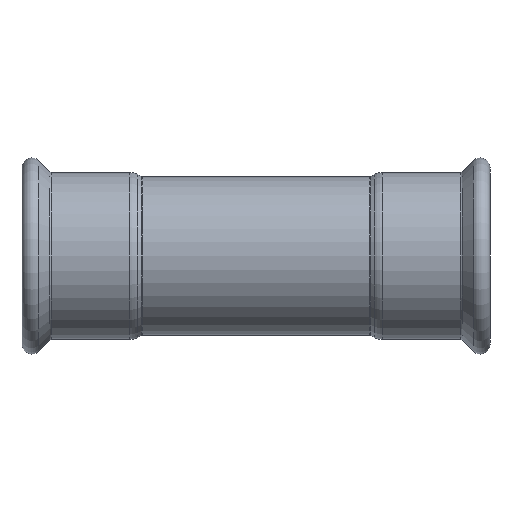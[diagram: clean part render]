
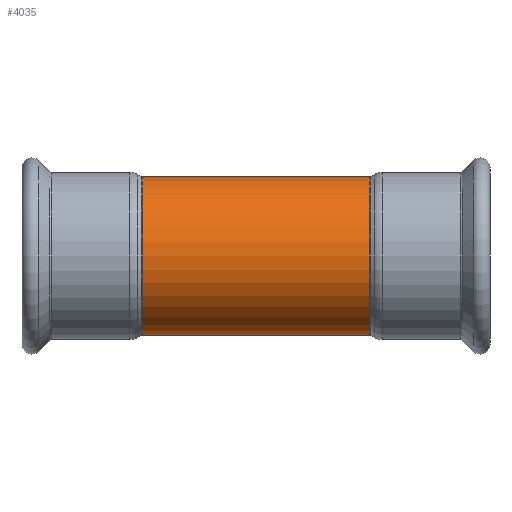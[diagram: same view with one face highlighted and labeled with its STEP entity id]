
A CAD part, front view. The second image highlights one B-rep face of the part: STEP entity #4035.
In plain terms, the highlighted cylindrical face has radius 43.95 mm (diameter 87.9 mm), a partial arc.
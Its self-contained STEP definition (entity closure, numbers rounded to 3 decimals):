
#20 = CARTESIAN_POINT ( 'NONE',  ( 63.056, 0., 43.95 ) ) ;
#26 = ORIENTED_EDGE ( 'NONE', *, *, #67, .T. ) ;
#67 = EDGE_CURVE ( 'NONE', #1685, #3552, #2051, .T. ) ;
#81 = CARTESIAN_POINT ( 'NONE',  ( 27.146, 0., 43.95 ) ) ;
#288 = DIRECTION ( 'NONE',  ( 0., 0., 1. ) ) ;
#338 = CARTESIAN_POINT ( 'NONE',  ( -63.056, 0., 0. ) ) ;
#498 = ORIENTED_EDGE ( 'NONE', *, *, #2917, .F. ) ;
#551 = ORIENTED_EDGE ( 'NONE', *, *, #2909, .T. ) ;
#606 = DIRECTION ( 'NONE',  ( -1., 0., 0. ) ) ;
#829 = FACE_OUTER_BOUND ( 'NONE', #4261, .T. ) ;
#1012 = DIRECTION ( 'NONE',  ( 0., 0., 1. ) ) ;
#1290 = CARTESIAN_POINT ( 'NONE',  ( 27.146, 0., 0. ) ) ;
#1395 = CIRCLE ( 'NONE', #1576, 43.95 ) ;
#1511 = VERTEX_POINT ( 'NONE', #3237 ) ;
#1576 = AXIS2_PLACEMENT_3D ( 'NONE', #1904, #2552, #3520 ) ;
#1685 = VERTEX_POINT ( 'NONE', #20 ) ;
#1903 = DIRECTION ( 'NONE',  ( -1., 0., 0. ) ) ;
#1904 = CARTESIAN_POINT ( 'NONE',  ( 63.056, 0., 0. ) ) ;
#2003 = VERTEX_POINT ( 'NONE', #3425 ) ;
#2051 = LINE ( 'NONE', #81, #2751 ) ;
#2054 = AXIS2_PLACEMENT_3D ( 'NONE', #338, #2959, #1012 ) ;
#2202 = CARTESIAN_POINT ( 'NONE',  ( 27.146, 0., -43.95 ) ) ;
#2552 = DIRECTION ( 'NONE',  ( -1., 0., 0. ) ) ;
#2668 = DIRECTION ( 'NONE',  ( -1., 0., 0. ) ) ;
#2686 = ORIENTED_EDGE ( 'NONE', *, *, #3074, .F. ) ;
#2703 = CARTESIAN_POINT ( 'NONE',  ( -63.056, 0., 43.95 ) ) ;
#2751 = VECTOR ( 'NONE', #2668, 1000. ) ;
#2758 = VECTOR ( 'NONE', #606, 1000. ) ;
#2859 = LINE ( 'NONE', #2202, #2758 ) ;
#2909 = EDGE_CURVE ( 'NONE', #2003, #1685, #1395, .T. ) ;
#2917 = EDGE_CURVE ( 'NONE', #2003, #1511, #2859, .T. ) ;
#2959 = DIRECTION ( 'NONE',  ( -1., 0., 0. ) ) ;
#3074 = EDGE_CURVE ( 'NONE', #1511, #3552, #4006, .T. ) ;
#3140 = CYLINDRICAL_SURFACE ( 'NONE', #4056, 43.95 ) ;
#3237 = CARTESIAN_POINT ( 'NONE',  ( -63.056, 0., -43.95 ) ) ;
#3425 = CARTESIAN_POINT ( 'NONE',  ( 63.056, 0., -43.95 ) ) ;
#3520 = DIRECTION ( 'NONE',  ( 0., 0., 1. ) ) ;
#3552 = VERTEX_POINT ( 'NONE', #2703 ) ;
#4006 = CIRCLE ( 'NONE', #2054, 43.95 ) ;
#4035 = ADVANCED_FACE ( 'NONE', ( #829 ), #3140, .T. ) ;
#4056 = AXIS2_PLACEMENT_3D ( 'NONE', #1290, #1903, #288 ) ;
#4261 = EDGE_LOOP ( 'NONE', ( #498, #551, #26, #2686 ) ) ;
